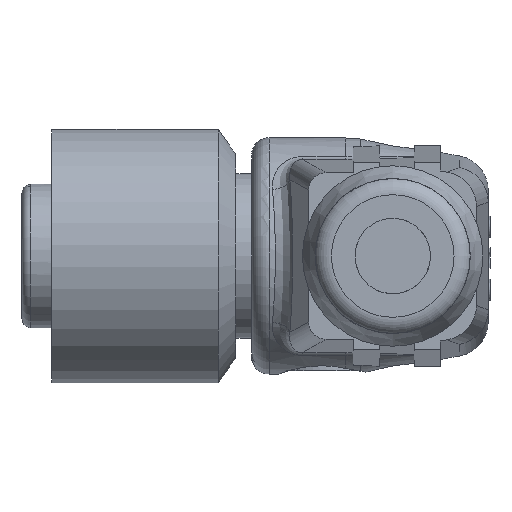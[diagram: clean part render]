
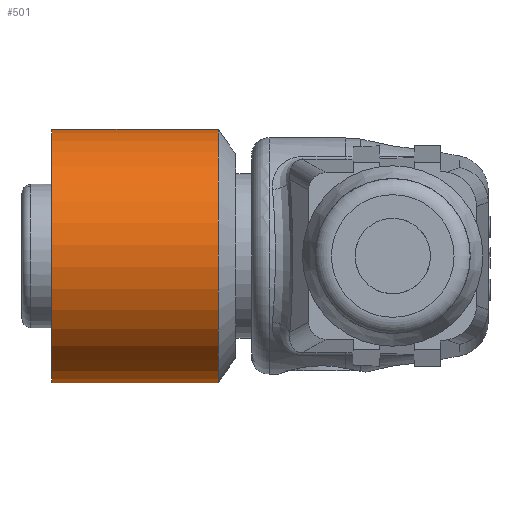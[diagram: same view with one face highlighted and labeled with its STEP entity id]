
A CAD part, front view. The second image highlights one B-rep face of the part: STEP entity #501.
In plain terms, the highlighted cylindrical face has radius 7.25 mm (diameter 14.5 mm), a full revolution.
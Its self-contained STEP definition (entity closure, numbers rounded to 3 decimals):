
#501 = ADVANCED_FACE( '', ( #1072, #1073 ), #1074, .T. );
#1072 = FACE_OUTER_BOUND( '', #2778, .T. );
#1073 = FACE_OUTER_BOUND( '', #2779, .T. );
#1074 = CYLINDRICAL_SURFACE( '', #2780, 7.25 );
#2778 = EDGE_LOOP( '', ( #4350 ) );
#2779 = EDGE_LOOP( '', ( #4351 ) );
#2780 = AXIS2_PLACEMENT_3D( '', #4352, #4353, #4354 );
#4350 = ORIENTED_EDGE( '', *, *, #4853, .T. );
#4351 = ORIENTED_EDGE( '', *, *, #5048, .F. );
#4352 = CARTESIAN_POINT( '', ( 15.654, 27.333, 0. ) );
#4353 = DIRECTION( '', ( 1., 0., 0. ) );
#4354 = DIRECTION( '', ( 0., 0.707, 0.707 ) );
#4853 = EDGE_CURVE( '', #5606, #5606, #5607, .T. );
#5048 = EDGE_CURVE( '', #5900, #5900, #5901, .T. );
#5606 = VERTEX_POINT( '', #7316 );
#5607 = CIRCLE( '', #7317, 7.25 );
#5900 = VERTEX_POINT( '', #8518 );
#5901 = CIRCLE( '', #8519, 7.25 );
#7316 = CARTESIAN_POINT( '', ( 10.904, 22.207, -5.127 ) );
#7317 = AXIS2_PLACEMENT_3D( '', #9411, #9412, #9413 );
#8518 = CARTESIAN_POINT( '', ( 20.404, 32.46, 5.127 ) );
#8519 = AXIS2_PLACEMENT_3D( '', #9615, #9616, #9617 );
#9411 = CARTESIAN_POINT( '', ( 10.904, 27.333, 0. ) );
#9412 = DIRECTION( '', ( 1., 0., 0. ) );
#9413 = DIRECTION( '', ( 0., -0.707, -0.707 ) );
#9615 = CARTESIAN_POINT( '', ( 20.404, 27.333, 0. ) );
#9616 = DIRECTION( '', ( 1., 0., 0. ) );
#9617 = DIRECTION( '', ( 0., 0.707, 0.707 ) );
